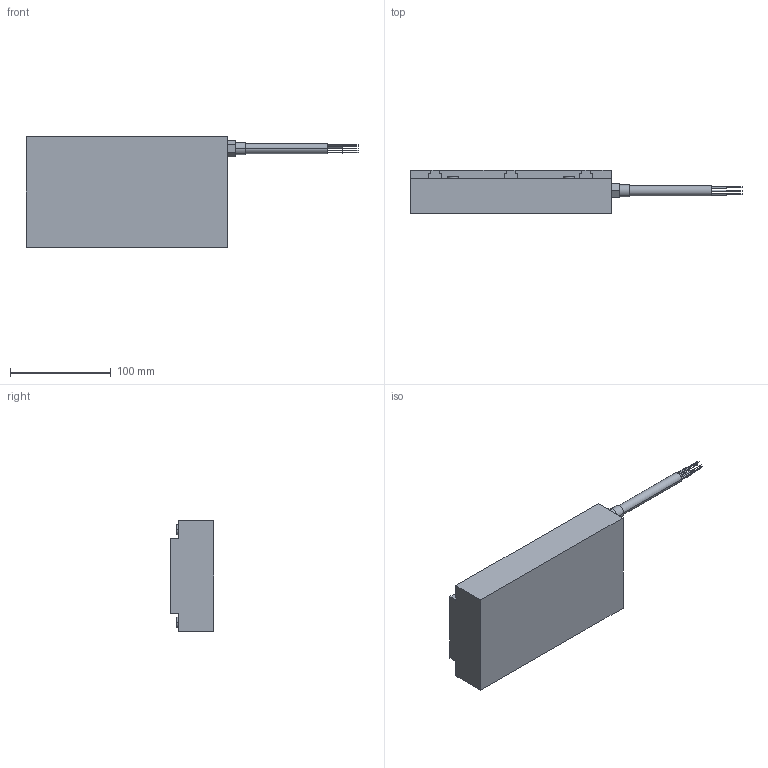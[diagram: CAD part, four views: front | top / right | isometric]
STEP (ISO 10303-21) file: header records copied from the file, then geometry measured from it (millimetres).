
FILE_DESCRIPTION((''),'2;1');
FILE_NAME('IC11_75','2010-03-09T',('brad.winesett'),('Kollmorgen'),'PRO/ENGINEER BY PARAMETRIC TECHNOLOGY CORPORATION, 2006510','PRO/ENGINEER BY PARAMETRIC TECHNOLOGY CORPORATION, 2006510','');
FILE_SCHEMA(('CONFIG_CONTROL_DESIGN'));
Length unit declared in the file: millimetre
Products named in the file (1): IC11_75
Bounding box: 330.2 x 43.3 x 110 mm (x, y, z)
Volume: 902964.4 mm3; surface area: 86095.2 mm2
Topology: 1 solids, 10 shells, 199 faces, 480 edges, 311 vertices
Faces by surface type: plane 101, cylinder 80, cone 18
Entity records: 5746 total; most frequent: DIRECTION 1040, CARTESIAN_POINT 973, ORIENTED_EDGE 888, EDGE_CURVE 462, AXIS2_PLACEMENT_3D 378, VERTEX_POINT 311, VECTOR 284, LINE 284
